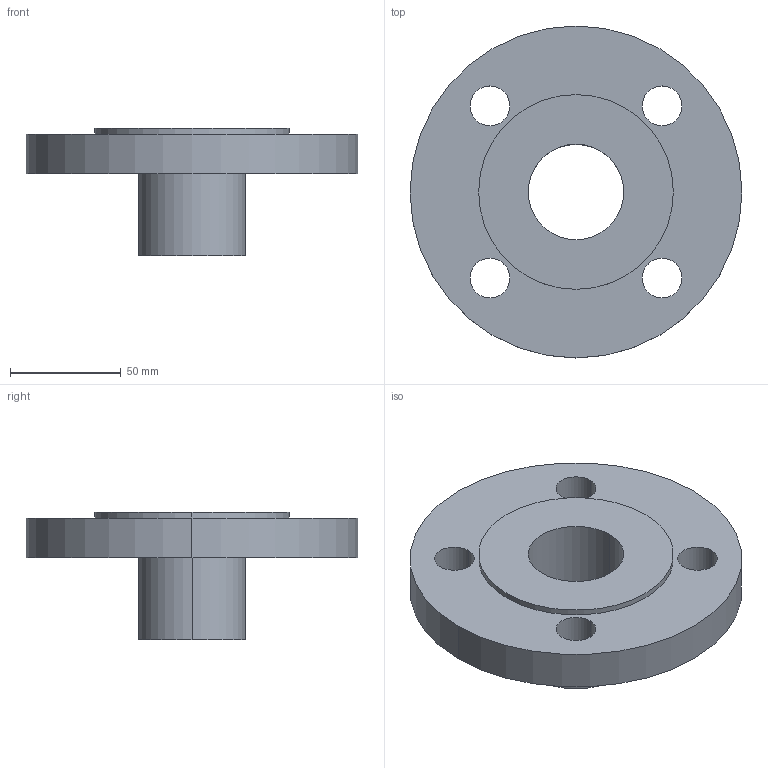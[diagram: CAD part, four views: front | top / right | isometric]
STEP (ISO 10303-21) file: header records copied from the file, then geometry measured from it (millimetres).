
FILE_DESCRIPTION (( 'STEP AP214' ), '1' );
FILE_NAME ('PN40 DN40 Type 02 in 33 - (Type A Face).STEP', '2018-12-30T02:30:53', ( '' ), ( '' ), 'SwSTEP 2.0', 'SolidWorks 2019', '' );
FILE_SCHEMA (( 'AUTOMOTIVE_DESIGN' ));
Length unit declared in the file: millimetre
Products named in the file (1): PN40 DN40 Type 02 in 33 - (Type A Face)
Bounding box: 150 x 150 x 57.6 mm (x, y, z)
Volume: 292419.5 mm3; surface area: 69688.6 mm2
Topology: 2 solids, 2 shells, 27 faces, 62 edges, 40 vertices
Faces by surface type: cylinder 18, plane 5, cone 4
Entity records: 851 total; most frequent: DIRECTION 158, CARTESIAN_POINT 130, ORIENTED_EDGE 124, AXIS2_PLACEMENT_3D 68, EDGE_CURVE 62, CIRCLE 40, EDGE_LOOP 40, VERTEX_POINT 40
